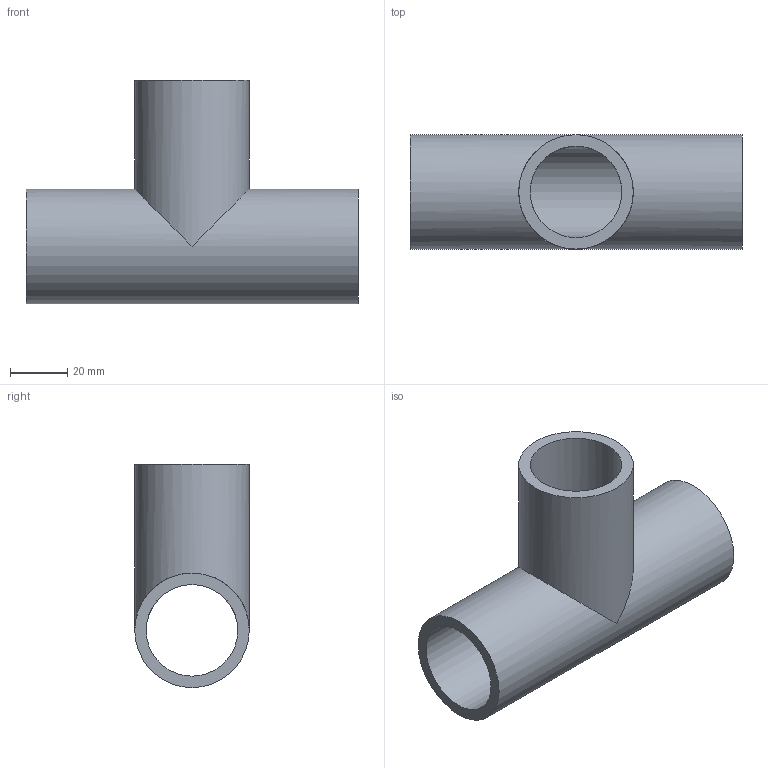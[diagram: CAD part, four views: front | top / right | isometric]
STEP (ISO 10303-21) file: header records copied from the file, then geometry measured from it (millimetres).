
FILE_DESCRIPTION(/* description */ ('ＶＰ'),/* implementation_level */ '2;1');
FILE_NAME(/* name */ 'C:\Users\Fujimoto-s\OneDrive\Inventor\WorkSpace\\X2\305D306E4ED6\X0\\ホームページ用\\X2\30C030A630F330ED30FC30C97D206750\X0\\塩ビ配管\TS-T25\TS-T25.stp',/* time_stamp */ '2024-08-10T13:38:05+09:00',/* author */ ('Fujimoto-s'),/* organization */ (''),/* preprocessor_version */ 'ST-DEVELOPER v15.2',/* originating_system */ 'Autodesk Inventor 2014',/* authorisation */ '');
FILE_SCHEMA (('AUTOMOTIVE_DESIGN { 1 0 10303 214 3 1 1 }'));
Length unit declared in the file: millimetre
Products named in the file (1): TS-T25
Bounding box: 116 x 40 x 78 mm (x, y, z)
Volume: 68305.1 mm3; surface area: 35467 mm2
Topology: 1 solids, 1 shells, 7 faces, 16 edges, 10 vertices
Faces by surface type: cylinder 4, plane 3
Full cylindrical faces by diameter (mm): 32 x2, 40 x2
Entity records: 206 total; most frequent: DIRECTION 36, CARTESIAN_POINT 28, ORIENTED_EDGE 20, AXIS2_PLACEMENT_3D 18, EDGE_LOOP 16, FACE_BOUND 12, VERTEX_POINT 10, EDGE_CURVE 10
